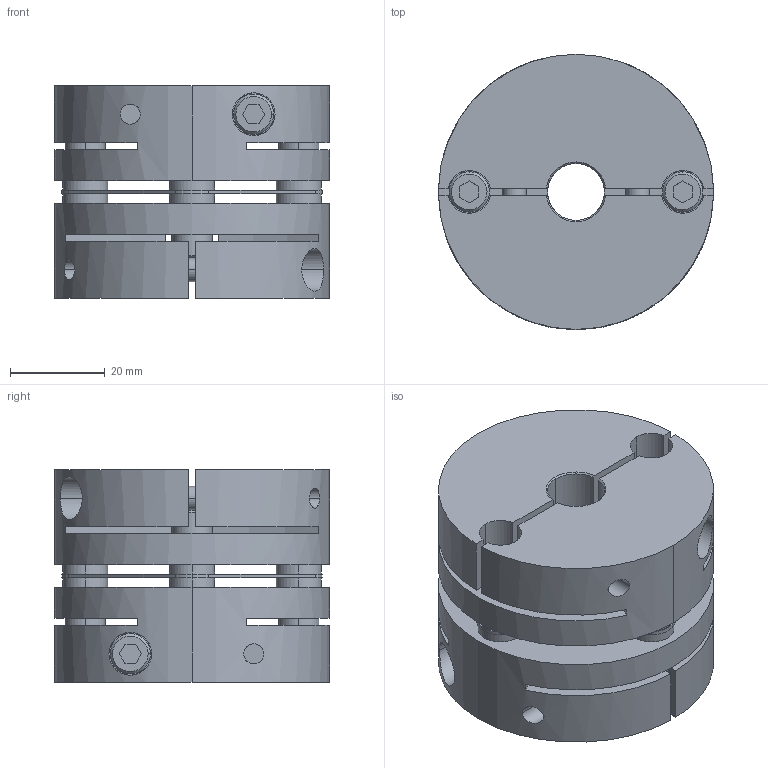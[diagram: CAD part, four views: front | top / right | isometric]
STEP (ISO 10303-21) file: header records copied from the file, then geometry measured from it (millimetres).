
FILE_DESCRIPTION((''),'2;1');
FILE_NAME('LAS-58C-12×14.stp','2015-10-14T15:53:15',(''),(''),'AutoCAD STEP 2000i','AutoCAD 2000i',', , ');
FILE_SCHEMA(('CONFIG_CONTROL_DESIGN'));
Length unit declared in the file: millimetre
Products named in the file (5): LAS-58C-12×12; 忣兜1; LA-5802-D12-1; LA-5802-D12; LAS58-ITA
Assembly tree (4 placements, depth 2):
  LAS-58C-12×12
    忣兜1
    LA-5802-D12-1
    LA-5802-D12
    LAS58-ITA
Bounding box: 58 x 58 x 44.8 mm (x, y, z)
Volume: 89979.6 mm3; surface area: 33976.2 mm2
Topology: 1 solids, 1 shells, 236 faces, 600 edges, 392 vertices
Faces by surface type: plane 112, cylinder 96, cone 28
Entity records: 7859 total; most frequent: CARTESIAN_POINT 1777, DIRECTION 1294, ORIENTED_EDGE 1200, EDGE_CURVE 600, AXIS2_PLACEMENT_3D 477, VERTEX_POINT 392, VECTOR 340, LINE 340
